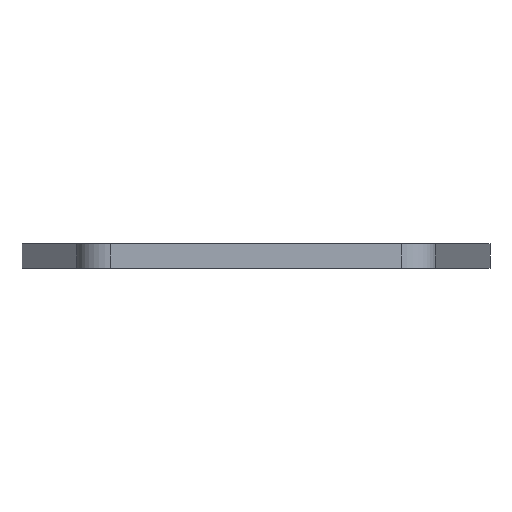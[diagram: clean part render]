
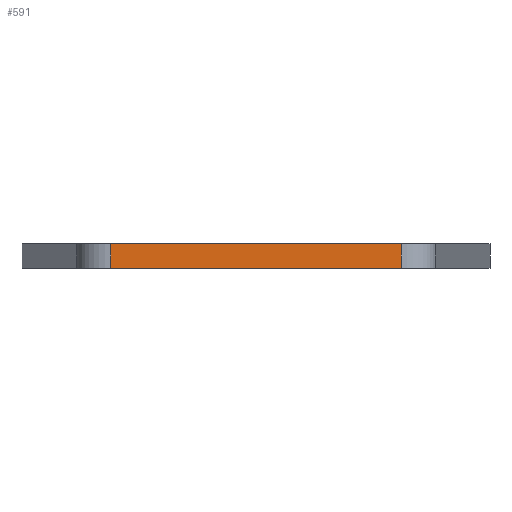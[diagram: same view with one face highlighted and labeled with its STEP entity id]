
A CAD part, front view. The second image highlights one B-rep face of the part: STEP entity #591.
In plain terms, the highlighted planar face has unit normal (0, -1, 0).
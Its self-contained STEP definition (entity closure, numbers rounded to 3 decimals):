
#26 = VECTOR ( 'NONE', #480, 1000. ) ;
#43 = PLANE ( 'NONE',  #665 ) ;
#55 = CARTESIAN_POINT ( 'NONE',  ( 0., -76.25, 2.5 ) ) ;
#78 = CARTESIAN_POINT ( 'NONE',  ( -14.754, -76.25, 2.5 ) ) ;
#86 = VECTOR ( 'NONE', #202, 1000. ) ;
#95 = DIRECTION ( 'NONE',  ( 0., 0., 1. ) ) ;
#130 = DIRECTION ( 'NONE',  ( 1., 0., 0. ) ) ;
#156 = EDGE_CURVE ( 'NONE', #877, #451, #600, .T. ) ;
#173 = CARTESIAN_POINT ( 'NONE',  ( -14.754, -76.25, 0. ) ) ;
#202 = DIRECTION ( 'NONE',  ( 0., 0., -1. ) ) ;
#248 = VERTEX_POINT ( 'NONE', #173 ) ;
#395 = CARTESIAN_POINT ( 'NONE',  ( -14.754, -76.25, 2.5 ) ) ;
#431 = DIRECTION ( 'NONE',  ( 1., 0., 0. ) ) ;
#451 = VERTEX_POINT ( 'NONE', #614 ) ;
#458 = CARTESIAN_POINT ( 'NONE',  ( 0., -76.25, 2.5 ) ) ;
#459 = EDGE_CURVE ( 'NONE', #868, #248, #484, .T. ) ;
#465 = EDGE_CURVE ( 'NONE', #868, #877, #469, .T. ) ;
#469 = LINE ( 'NONE', #55, #629 ) ;
#480 = DIRECTION ( 'NONE',  ( 0., 0., -1. ) ) ;
#484 = LINE ( 'NONE', #78, #86 ) ;
#554 = ORIENTED_EDGE ( 'NONE', *, *, #156, .F. ) ;
#591 = ADVANCED_FACE ( 'NONE', ( #619 ), #43, .F. ) ;
#600 = LINE ( 'NONE', #743, #26 ) ;
#610 = ORIENTED_EDGE ( 'NONE', *, *, #459, .T. ) ;
#614 = CARTESIAN_POINT ( 'NONE',  ( 14.754, -76.25, 0. ) ) ;
#619 = FACE_OUTER_BOUND ( 'NONE', #723, .T. ) ;
#629 = VECTOR ( 'NONE', #431, 1000. ) ;
#641 = ORIENTED_EDGE ( 'NONE', *, *, #881, .T. ) ;
#665 = AXIS2_PLACEMENT_3D ( 'NONE', #458, #745, #95 ) ;
#689 = CARTESIAN_POINT ( 'NONE',  ( 14.754, -76.25, 2.5 ) ) ;
#697 = VECTOR ( 'NONE', #130, 1000. ) ;
#723 = EDGE_LOOP ( 'NONE', ( #641, #554, #755, #610 ) ) ;
#743 = CARTESIAN_POINT ( 'NONE',  ( 14.754, -76.25, 2.5 ) ) ;
#745 = DIRECTION ( 'NONE',  ( 0., 1., 0. ) ) ;
#755 = ORIENTED_EDGE ( 'NONE', *, *, #465, .F. ) ;
#778 = CARTESIAN_POINT ( 'NONE',  ( 0., -76.25, 0. ) ) ;
#868 = VERTEX_POINT ( 'NONE', #395 ) ;
#877 = VERTEX_POINT ( 'NONE', #689 ) ;
#881 = EDGE_CURVE ( 'NONE', #248, #451, #891, .T. ) ;
#891 = LINE ( 'NONE', #778, #697 ) ;
